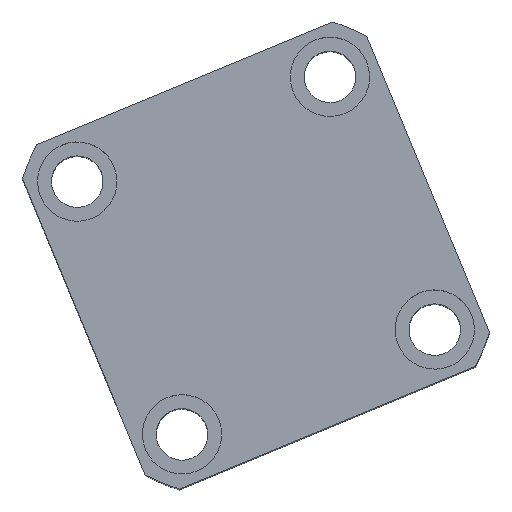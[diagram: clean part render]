
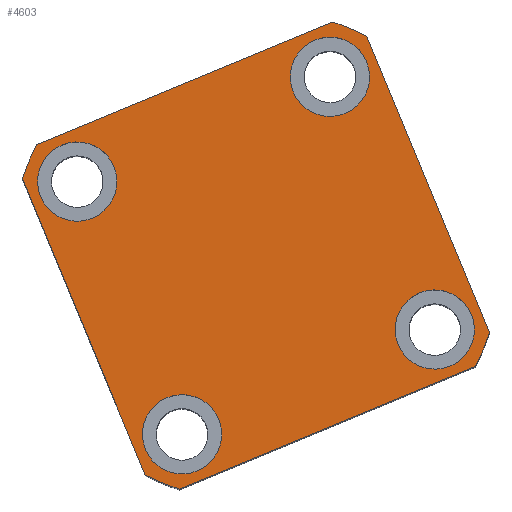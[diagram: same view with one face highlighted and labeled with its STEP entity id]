
A CAD part, top view. The second image highlights one B-rep face of the part: STEP entity #4603.
In plain terms, the highlighted planar face has unit normal (0, 0, 1) as drawn and (0, 0, -1) by its records, which use the part's own axes.
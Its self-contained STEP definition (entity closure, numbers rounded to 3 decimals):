
#265 = DIRECTION ( 'NONE',  ( 0., 0., -1. ) ) ;
#359 = CARTESIAN_POINT ( 'NONE',  ( 34.5, -34.5, 0. ) ) ;
#510 = CARTESIAN_POINT ( 'NONE',  ( 0., 0., 0. ) ) ;
#677 = CARTESIAN_POINT ( 'NONE',  ( 24.5, -34.5, 0. ) ) ;
#753 = FACE_BOUND ( 'NONE', #8005, .T. ) ;
#757 = DIRECTION ( 'NONE',  ( 0., 0., 1. ) ) ;
#923 = EDGE_CURVE ( 'NONE', #7760, #2440, #4748, .T. ) ;
#977 = EDGE_CURVE ( 'NONE', #13135, #12061, #14783, .T. ) ;
#1164 = CARTESIAN_POINT ( 'NONE',  ( 0., 0., 0. ) ) ;
#1175 = FACE_OUTER_BOUND ( 'NONE', #9414, .T. ) ;
#1204 = EDGE_CURVE ( 'NONE', #2440, #11158, #10720, .T. ) ;
#1272 = CARTESIAN_POINT ( 'NONE',  ( 47., 40.435, 0. ) ) ;
#1273 = CIRCLE ( 'NONE', #12604, 10. ) ;
#1274 = CARTESIAN_POINT ( 'NONE',  ( -34.5, 34.5, 0. ) ) ;
#1288 = CARTESIAN_POINT ( 'NONE',  ( -47., 47., 0. ) ) ;
#1328 = VERTEX_POINT ( 'NONE', #17657 ) ;
#1543 = EDGE_CURVE ( 'NONE', #4537, #12547, #4955, .T. ) ;
#1738 = DIRECTION ( 'NONE',  ( -1., 0., 0. ) ) ;
#1789 = ORIENTED_EDGE ( 'NONE', *, *, #2044, .F. ) ;
#2016 = ORIENTED_EDGE ( 'NONE', *, *, #11038, .F. ) ;
#2044 = EDGE_CURVE ( 'NONE', #10714, #2563, #3765, .T. ) ;
#2239 = CIRCLE ( 'NONE', #14749, 10. ) ;
#2440 = VERTEX_POINT ( 'NONE', #11881 ) ;
#2542 = DIRECTION ( 'NONE',  ( 1., 0., 0. ) ) ;
#2563 = VERTEX_POINT ( 'NONE', #8491 ) ;
#2660 = DIRECTION ( 'NONE',  ( -1., 0., 0. ) ) ;
#2693 = CIRCLE ( 'NONE', #14622, 10. ) ;
#2822 = CARTESIAN_POINT ( 'NONE',  ( 47., -40.435, 0. ) ) ;
#3035 = VERTEX_POINT ( 'NONE', #1272 ) ;
#3045 = EDGE_LOOP ( 'NONE', ( #2016, #4775 ) ) ;
#3061 = CARTESIAN_POINT ( 'NONE',  ( 0., 0., 0. ) ) ;
#3248 = DIRECTION ( 'NONE',  ( 0., 0., -1. ) ) ;
#3255 = EDGE_CURVE ( 'NONE', #12061, #13135, #2693, .T. ) ;
#3626 = CIRCLE ( 'NONE', #4954, 62. ) ;
#3650 = AXIS2_PLACEMENT_3D ( 'NONE', #10060, #11020, #13520 ) ;
#3684 = CARTESIAN_POINT ( 'NONE',  ( -34.5, -34.5, 0. ) ) ;
#3746 = DIRECTION ( 'NONE',  ( -1., 0., 0. ) ) ;
#3765 = CIRCLE ( 'NONE', #10386, 10. ) ;
#3815 = CIRCLE ( 'NONE', #9011, 10. ) ;
#4206 = DIRECTION ( 'NONE',  ( 0., 0., -1. ) ) ;
#4376 = FACE_BOUND ( 'NONE', #6480, .T. ) ;
#4435 = DIRECTION ( 'NONE',  ( 1., 0., 0. ) ) ;
#4537 = VERTEX_POINT ( 'NONE', #15757 ) ;
#4603 = ADVANCED_FACE ( 'NONE', ( #753, #4376, #11649, #15730, #1175 ), #7577, .F. ) ;
#4748 = LINE ( 'NONE', #1288, #11142 ) ;
#4775 = ORIENTED_EDGE ( 'NONE', *, *, #1543, .F. ) ;
#4955 = CIRCLE ( 'NONE', #3650, 10. ) ;
#4954 = AXIS2_PLACEMENT_3D ( 'NONE', #3061, #12613, #4435 ) ;
#4983 = EDGE_CURVE ( 'NONE', #11594, #7760, #13142, .T. ) ;
#5074 = DIRECTION ( 'NONE',  ( 0., 0., -1. ) ) ;
#5145 = DIRECTION ( 'NONE',  ( -1., 0., 0. ) ) ;
#5207 = DIRECTION ( 'NONE',  ( 0., 0., 1. ) ) ;
#5223 = CARTESIAN_POINT ( 'NONE',  ( 47., 47., 0. ) ) ;
#5260 = CARTESIAN_POINT ( 'NONE',  ( -24.5, -34.5, 0. ) ) ;
#5402 = DIRECTION ( 'NONE',  ( 0., -1., 0. ) ) ;
#5600 = VERTEX_POINT ( 'NONE', #2822 ) ;
#5765 = LINE ( 'NONE', #5223, #6203 ) ;
#5820 = ORIENTED_EDGE ( 'NONE', *, *, #9348, .F. ) ;
#5827 = AXIS2_PLACEMENT_3D ( 'NONE', #11077, #265, #11557 ) ;
#6187 = CARTESIAN_POINT ( 'NONE',  ( 0., 0., 0. ) ) ;
#6203 = VECTOR ( 'NONE', #6601, 1000. ) ;
#6480 = EDGE_LOOP ( 'NONE', ( #7559, #1789 ) ) ;
#6601 = DIRECTION ( 'NONE',  ( 0., 1., 0. ) ) ;
#6660 = ORIENTED_EDGE ( 'NONE', *, *, #923, .F. ) ;
#7052 = DIRECTION ( 'NONE',  ( 0., 0., -1. ) ) ;
#7140 = CARTESIAN_POINT ( 'NONE',  ( -44.5, 34.5, 0. ) ) ;
#7279 = EDGE_CURVE ( 'NONE', #2563, #10714, #2239, .T. ) ;
#7559 = ORIENTED_EDGE ( 'NONE', *, *, #7279, .F. ) ;
#7577 = PLANE ( 'NONE',  #15781 ) ;
#7657 = CARTESIAN_POINT ( 'NONE',  ( -47., 40.435, 0. ) ) ;
#7760 = VERTEX_POINT ( 'NONE', #7657 ) ;
#7916 = CARTESIAN_POINT ( 'NONE',  ( -47., 47., 0. ) ) ;
#8005 = EDGE_LOOP ( 'NONE', ( #16966, #14944 ) ) ;
#8192 = VERTEX_POINT ( 'NONE', #7140 ) ;
#8284 = CARTESIAN_POINT ( 'NONE',  ( -47., -47., 0. ) ) ;
#8491 = CARTESIAN_POINT ( 'NONE',  ( -44.5, -34.5, 0. ) ) ;
#8615 = EDGE_LOOP ( 'NONE', ( #12024, #10003 ) ) ;
#8845 = ORIENTED_EDGE ( 'NONE', *, *, #9780, .F. ) ;
#8914 = CARTESIAN_POINT ( 'NONE',  ( -24.5, 34.5, 0. ) ) ;
#9011 = AXIS2_PLACEMENT_3D ( 'NONE', #11438, #3248, #12802 ) ;
#9348 = EDGE_CURVE ( 'NONE', #5600, #3035, #5765, .T. ) ;
#9363 = EDGE_CURVE ( 'NONE', #3035, #14394, #9388, .T. ) ;
#9373 = CIRCLE ( 'NONE', #15013, 10. ) ;
#9388 = CIRCLE ( 'NONE', #10779, 62. ) ;
#9414 = EDGE_LOOP ( 'NONE', ( #11291, #5820, #8845, #12902, #17599, #6660, #9920, #12434 ) ) ;
#9526 = EDGE_CURVE ( 'NONE', #8192, #10185, #1273, .T. ) ;
#9704 = DIRECTION ( 'NONE',  ( 0., 0., 1. ) ) ;
#9780 = EDGE_CURVE ( 'NONE', #1328, #5600, #3626, .T. ) ;
#9912 = DIRECTION ( 'NONE',  ( 0., 0., -1. ) ) ;
#9920 = ORIENTED_EDGE ( 'NONE', *, *, #4983, .F. ) ;
#10003 = ORIENTED_EDGE ( 'NONE', *, *, #3255, .F. ) ;
#10060 = CARTESIAN_POINT ( 'NONE',  ( 34.5, -34.5, 0. ) ) ;
#10185 = VERTEX_POINT ( 'NONE', #8914 ) ;
#10303 = DIRECTION ( 'NONE',  ( 1., 0., 0. ) ) ;
#10386 = AXIS2_PLACEMENT_3D ( 'NONE', #3684, #5074, #16063 ) ;
#10594 = EDGE_CURVE ( 'NONE', #14394, #11594, #14292, .T. ) ;
#10714 = VERTEX_POINT ( 'NONE', #5260 ) ;
#10718 = DIRECTION ( 'NONE',  ( 0., 0., 1. ) ) ;
#10720 = CIRCLE ( 'NONE', #11320, 62. ) ;
#10779 = AXIS2_PLACEMENT_3D ( 'NONE', #1164, #10718, #2542 ) ;
#10832 = DIRECTION ( 'NONE',  ( 0., 0., -1. ) ) ;
#10970 = CARTESIAN_POINT ( 'NONE',  ( 24.5, 34.5, 0. ) ) ;
#11020 = DIRECTION ( 'NONE',  ( 0., 0., -1. ) ) ;
#11023 = DIRECTION ( 'NONE',  ( 1., 0., 0. ) ) ;
#11038 = EDGE_CURVE ( 'NONE', #12547, #4537, #9373, .T. ) ;
#11077 = CARTESIAN_POINT ( 'NONE',  ( 34.5, 34.5, 0. ) ) ;
#11142 = VECTOR ( 'NONE', #5402, 1000. ) ;
#11158 = VERTEX_POINT ( 'NONE', #17665 ) ;
#11291 = ORIENTED_EDGE ( 'NONE', *, *, #9363, .F. ) ;
#11320 = AXIS2_PLACEMENT_3D ( 'NONE', #510, #9704, #16407 ) ;
#11438 = CARTESIAN_POINT ( 'NONE',  ( -34.5, 34.5, 0. ) ) ;
#11557 = DIRECTION ( 'NONE',  ( -1., 0., 0. ) ) ;
#11594 = VERTEX_POINT ( 'NONE', #14553 ) ;
#11649 = FACE_BOUND ( 'NONE', #3045, .T. ) ;
#11881 = CARTESIAN_POINT ( 'NONE',  ( -47., -40.435, 0. ) ) ;
#12024 = ORIENTED_EDGE ( 'NONE', *, *, #977, .F. ) ;
#12061 = VERTEX_POINT ( 'NONE', #16283 ) ;
#12282 = EDGE_CURVE ( 'NONE', #10185, #8192, #3815, .T. ) ;
#12434 = ORIENTED_EDGE ( 'NONE', *, *, #10594, .F. ) ;
#12547 = VERTEX_POINT ( 'NONE', #677 ) ;
#12604 = AXIS2_PLACEMENT_3D ( 'NONE', #1274, #10832, #2660 ) ;
#12613 = DIRECTION ( 'NONE',  ( 0., 0., 1. ) ) ;
#12734 = LINE ( 'NONE', #8284, #15954 ) ;
#12802 = DIRECTION ( 'NONE',  ( -1., 0., 0. ) ) ;
#12902 = ORIENTED_EDGE ( 'NONE', *, *, #16518, .F. ) ;
#12965 = CARTESIAN_POINT ( 'NONE',  ( 40.435, 47., 0. ) ) ;
#13135 = VERTEX_POINT ( 'NONE', #10970 ) ;
#13142 = CIRCLE ( 'NONE', #16686, 62. ) ;
#13384 = CARTESIAN_POINT ( 'NONE',  ( 0., 0., 0. ) ) ;
#13520 = DIRECTION ( 'NONE',  ( -1., 0., 0. ) ) ;
#14292 = LINE ( 'NONE', #7916, #17514 ) ;
#14394 = VERTEX_POINT ( 'NONE', #12965 ) ;
#14553 = CARTESIAN_POINT ( 'NONE',  ( -40.435, 47., 0. ) ) ;
#14622 = AXIS2_PLACEMENT_3D ( 'NONE', #14851, #4206, #3746 ) ;
#14749 = AXIS2_PLACEMENT_3D ( 'NONE', #15237, #7052, #16608 ) ;
#14764 = DIRECTION ( 'NONE',  ( 1., 0., 0. ) ) ;
#14783 = CIRCLE ( 'NONE', #5827, 10. ) ;
#14851 = CARTESIAN_POINT ( 'NONE',  ( 34.5, 34.5, 0. ) ) ;
#14944 = ORIENTED_EDGE ( 'NONE', *, *, #12282, .F. ) ;
#15013 = AXIS2_PLACEMENT_3D ( 'NONE', #359, #9912, #1738 ) ;
#15237 = CARTESIAN_POINT ( 'NONE',  ( -34.5, -34.5, 0. ) ) ;
#15730 = FACE_BOUND ( 'NONE', #8615, .T. ) ;
#15757 = CARTESIAN_POINT ( 'NONE',  ( 44.5, -34.5, 0. ) ) ;
#15781 = AXIS2_PLACEMENT_3D ( 'NONE', #6187, #757, #10303 ) ;
#15954 = VECTOR ( 'NONE', #11023, 1000. ) ;
#16063 = DIRECTION ( 'NONE',  ( -1., 0., 0. ) ) ;
#16283 = CARTESIAN_POINT ( 'NONE',  ( 44.5, 34.5, 0. ) ) ;
#16407 = DIRECTION ( 'NONE',  ( 1., 0., 0. ) ) ;
#16518 = EDGE_CURVE ( 'NONE', #11158, #1328, #12734, .T. ) ;
#16608 = DIRECTION ( 'NONE',  ( -1., 0., 0. ) ) ;
#16686 = AXIS2_PLACEMENT_3D ( 'NONE', #13384, #5207, #14764 ) ;
#16966 = ORIENTED_EDGE ( 'NONE', *, *, #9526, .F. ) ;
#17514 = VECTOR ( 'NONE', #5145, 1000. ) ;
#17599 = ORIENTED_EDGE ( 'NONE', *, *, #1204, .F. ) ;
#17657 = CARTESIAN_POINT ( 'NONE',  ( 40.435, -47., 0. ) ) ;
#17665 = CARTESIAN_POINT ( 'NONE',  ( -40.435, -47., 0. ) ) ;
